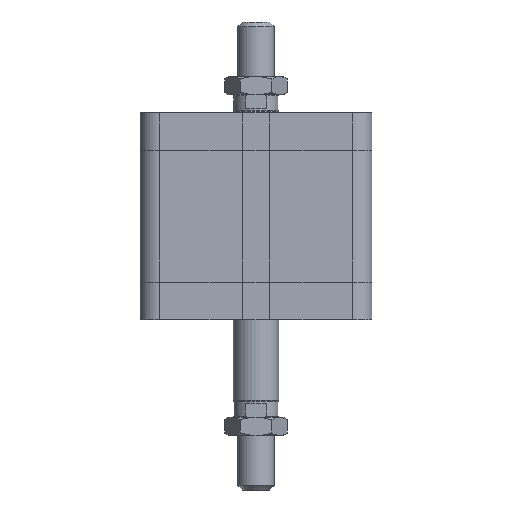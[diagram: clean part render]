
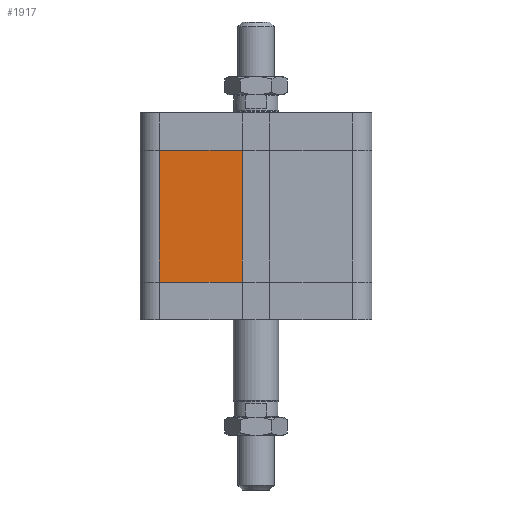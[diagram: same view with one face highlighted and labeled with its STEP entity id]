
A CAD part, front view. The second image highlights one B-rep face of the part: STEP entity #1917.
In plain terms, the highlighted planar face has unit normal (0, -1, 0).
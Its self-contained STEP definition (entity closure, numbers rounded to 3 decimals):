
#1828=CARTESIAN_POINT('',(-42.5,-51.,16.5));
#1829=VERTEX_POINT('',#1828);
#1837=CARTESIAN_POINT('',(-42.5,-51.,74.5));
#1838=VERTEX_POINT('',#1837);
#1839=CARTESIAN_POINT('',(-42.5,-51.,16.5));
#1840=DIRECTION('',(0.0,0.0,1.0));
#1841=VECTOR('',#1840,58.);
#1842=LINE('',#1839,#1841);
#1843=EDGE_CURVE('',#1829,#1838,#1842,.T.);
#1887=CARTESIAN_POINT('',(-6.,-51.0,0.0));
#1888=DIRECTION('',(0.0,-1.0,0.0));
#1889=DIRECTION('',(0.0,0.0,-1.0));
#1890=AXIS2_PLACEMENT_3D('',#1887,#1888,#1889);
#1891=PLANE('',#1890);
#1892=CARTESIAN_POINT('',(-6.,-51.0,16.5));
#1893=VERTEX_POINT('',#1892);
#1894=CARTESIAN_POINT('',(-42.5,-51.,16.5));
#1895=DIRECTION('',(1.0,0.0,0.0));
#1896=VECTOR('',#1895,36.5);
#1897=LINE('',#1894,#1896);
#1898=EDGE_CURVE('',#1829,#1893,#1897,.T.);
#1899=ORIENTED_EDGE('',*,*,#1898,.T.);
#1900=CARTESIAN_POINT('',(-6.,-51.0,74.5));
#1901=VERTEX_POINT('',#1900);
#1902=CARTESIAN_POINT('',(-6.,-51.0,16.5));
#1903=DIRECTION('',(0.0,0.0,1.0));
#1904=VECTOR('',#1903,58.);
#1905=LINE('',#1902,#1904);
#1906=EDGE_CURVE('',#1893,#1901,#1905,.T.);
#1907=ORIENTED_EDGE('',*,*,#1906,.T.);
#1908=CARTESIAN_POINT('',(-42.5,-51.,74.5));
#1909=DIRECTION('',(1.0,0.0,0.0));
#1910=VECTOR('',#1909,36.5);
#1911=LINE('',#1908,#1910);
#1912=EDGE_CURVE('',#1838,#1901,#1911,.T.);
#1913=ORIENTED_EDGE('',*,*,#1912,.F.);
#1914=ORIENTED_EDGE('',*,*,#1843,.F.);
#1915=EDGE_LOOP('',(#1899,#1907,#1913,#1914));
#1916=FACE_OUTER_BOUND('',#1915,.T.);
#1917=ADVANCED_FACE('',(#1916),#1891,.T.);
